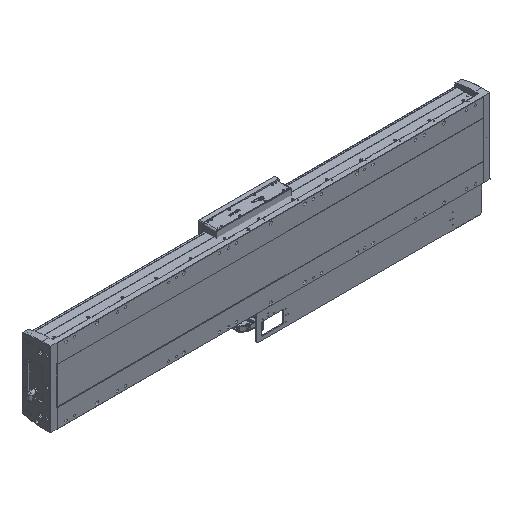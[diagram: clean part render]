
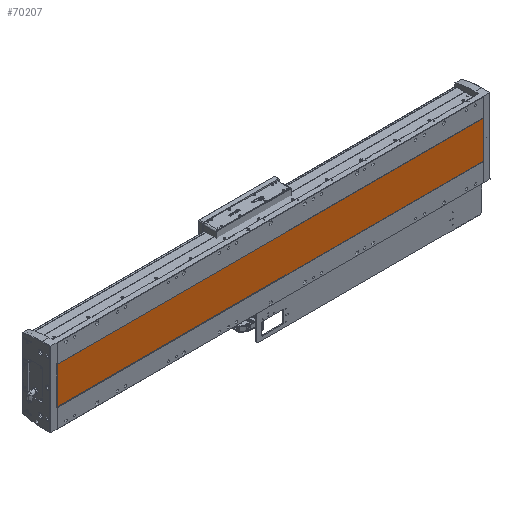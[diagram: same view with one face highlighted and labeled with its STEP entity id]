
A CAD part, isometric view. The second image highlights one B-rep face of the part: STEP entity #70207.
In plain terms, the highlighted planar face has unit normal (0, -1, 0).
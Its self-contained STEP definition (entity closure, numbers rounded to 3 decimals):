
#8813=FACE_OUTER_BOUND($,#13239,.T.);
#13239=EDGE_LOOP($,(#52179,#52180,#52181,#52182));
#18734=LINE($,#105824,#24703);
#19136=LINE($,#107281,#25105);
#19139=LINE($,#107287,#25108);
#19140=LINE($,#107288,#25109);
#24703=VECTOR($,#83616,110.);
#25105=VECTOR($,#85216,1250.);
#25108=VECTOR($,#85221,1250.);
#25109=VECTOR($,#85222,110.);
#30884=VERTEX_POINT($,#105821);
#30885=VERTEX_POINT($,#105823);
#31333=VERTEX_POINT($,#107280);
#31335=VERTEX_POINT($,#107286);
#38528=EDGE_CURVE($,#30884,#30885,#18734,.T.);
#39217=EDGE_CURVE($,#31333,#30885,#19136,.T.);
#39220=EDGE_CURVE($,#31335,#30884,#19139,.T.);
#39221=EDGE_CURVE($,#31333,#31335,#19140,.T.);
#52179=ORIENTED_EDGE($,*,*,#39217,.T.);
#52180=ORIENTED_EDGE($,*,*,#38528,.F.);
#52181=ORIENTED_EDGE($,*,*,#39220,.F.);
#52182=ORIENTED_EDGE($,*,*,#39221,.F.);
#67252=PLANE($,#75114);
#70207=ADVANCED_FACE($,(#8813),#67252,.T.);
#75114=AXIS2_PLACEMENT_3D($,#107285,#85219,#85220);
#83616=DIRECTION($,(0.,0.,-1.));
#85216=DIRECTION($,(1.,0.,0.));
#85219=DIRECTION('center_axis',(0.,-1.,0.));
#85220=DIRECTION('ref_axis',(0.,0.,-1.));
#85221=DIRECTION($,(1.,0.,0.));
#85222=DIRECTION($,(0.,0.,1.));
#105821=CARTESIAN_POINT('',(1250.,2.,240.));
#105823=CARTESIAN_POINT('',(1250.,2.,130.));
#105824=CARTESIAN_POINT($,(1250.,2.,240.));
#107280=CARTESIAN_POINT('',(0.,2.,130.));
#107281=CARTESIAN_POINT($,(625.,2.,130.));
#107285=CARTESIAN_POINT('Origin',(625.,2.,240.));
#107286=CARTESIAN_POINT('',(0.,2.,240.));
#107287=CARTESIAN_POINT($,(625.,2.,240.));
#107288=CARTESIAN_POINT($,(0.,2.,240.));
